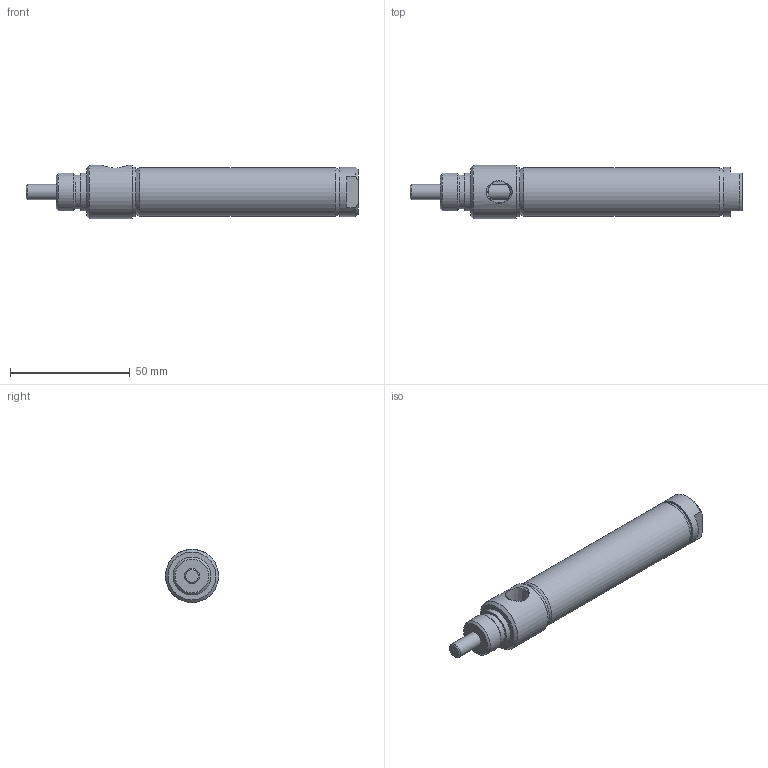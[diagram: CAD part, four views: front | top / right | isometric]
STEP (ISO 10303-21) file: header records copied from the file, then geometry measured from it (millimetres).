
FILE_DESCRIPTION( ( 'STEP AP214' ), '1' );
FILE_NAME( 'p:/temp/worker_427/temp/exporttempdir_2332_54_6NX78/format_0/0750D01-02A-03.stp', '2020-05-07T14:29:49', ( 'License CC BY-ND 4.0' ), ( 'CADENAS' ), ' ', 'PARTsolutions', ' ' );
FILE_SCHEMA( ( 'AUTOMOTIVE_DESIGN { 1 0 10303 214 1 1 1 1 }' ) );
Length unit declared in the file: inch
Products named in the file (3): 0750D01-02A-03; _0750D01-02A-030b; _0750D01-02A-030r
Assembly tree (2 placements, depth 2):
  0750D01-02A-03
    _0750D01-02A-030b
    _0750D01-02A-030r
Bounding box: 138.91 x 22.23 x 22.23 mm (x, y, z)
Volume: 26628 mm3; surface area: 19252 mm2
Topology: 2 solids, 2 shells, 44 faces, 85 edges, 54 vertices
Faces by surface type: plane 19, cone 13, cylinder 12
Full cylindrical faces by diameter (mm): 6.35 x3, 14.196 x1, 15.85 x1, 15.875 x1, 19.05 x2, 20.472 x1, 20.65 x2, 22.225 x1
Entity records: 1546 total; most frequent: CARTESIAN_POINT 317, DIRECTION 186, ORIENTED_EDGE 122, AXIS2_PLACEMENT_3D 88, EDGE_LOOP 78, EDGE_CURVE 61, FACE_OUTER_BOUND 56, VERTEX_POINT 51
